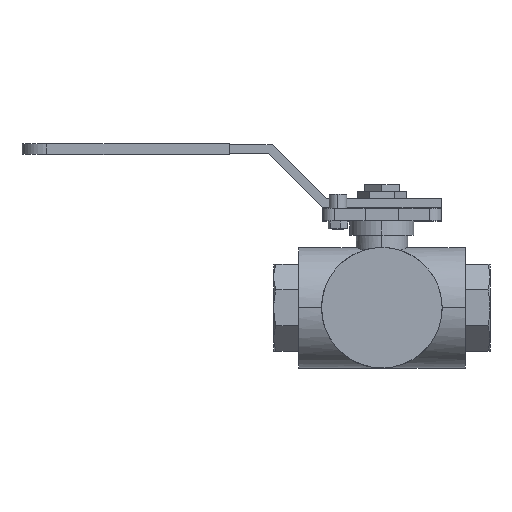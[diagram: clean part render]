
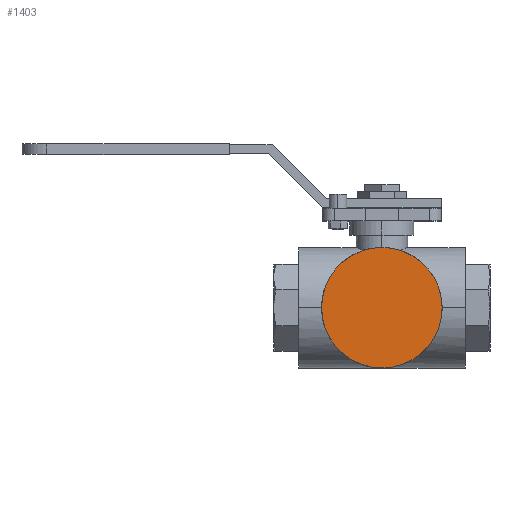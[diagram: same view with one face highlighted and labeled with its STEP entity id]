
A CAD part, top view. The second image highlights one B-rep face of the part: STEP entity #1403.
In plain terms, the highlighted planar face has unit normal (0, 0, 1).
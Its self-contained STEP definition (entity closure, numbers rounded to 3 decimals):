
#11 = ORIENTED_EDGE ( 'NONE', *, *, #4288, .T. ) ;
#52 = CARTESIAN_POINT ( 'NONE',  ( 0., 0., 34. ) ) ;
#454 = AXIS2_PLACEMENT_3D ( 'NONE', #2874, #1828, #5481 ) ;
#591 = DIRECTION ( 'NONE',  ( 1., 0., 0. ) ) ;
#869 = DIRECTION ( 'NONE',  ( 0., 0., 1. ) ) ;
#1403 = ADVANCED_FACE ( 'NONE', ( #5393 ), #4964, .F. ) ;
#1828 = DIRECTION ( 'NONE',  ( 0., 0., -1. ) ) ;
#1930 = AXIS2_PLACEMENT_3D ( 'NONE', #52, #3730, #591 ) ;
#2874 = CARTESIAN_POINT ( 'NONE',  ( 0., 34., 34. ) ) ;
#3685 = VERTEX_POINT ( 'NONE', #6478 ) ;
#3730 = DIRECTION ( 'NONE',  ( 0., 0., 1. ) ) ;
#3773 = CARTESIAN_POINT ( 'NONE',  ( -34., 0., 34. ) ) ;
#3995 = CARTESIAN_POINT ( 'NONE',  ( 0., 0., 34. ) ) ;
#4191 = AXIS2_PLACEMENT_3D ( 'NONE', #3995, #869, #4520 ) ;
#4288 = EDGE_CURVE ( 'NONE', #3685, #6642, #5893, .T. ) ;
#4520 = DIRECTION ( 'NONE',  ( 1., 0., 0. ) ) ;
#4964 = PLANE ( 'NONE',  #454 ) ;
#5083 = ORIENTED_EDGE ( 'NONE', *, *, #6578, .T. ) ;
#5393 = FACE_OUTER_BOUND ( 'NONE', #5908, .T. ) ;
#5481 = DIRECTION ( 'NONE',  ( -1., 0., 0. ) ) ;
#5893 = CIRCLE ( 'NONE', #4191, 34. ) ;
#5908 = EDGE_LOOP ( 'NONE', ( #5083, #11 ) ) ;
#6478 = CARTESIAN_POINT ( 'NONE',  ( 34., 0., 34. ) ) ;
#6512 = CIRCLE ( 'NONE', #1930, 34. ) ;
#6578 = EDGE_CURVE ( 'NONE', #6642, #3685, #6512, .T. ) ;
#6642 = VERTEX_POINT ( 'NONE', #3773 ) ;
